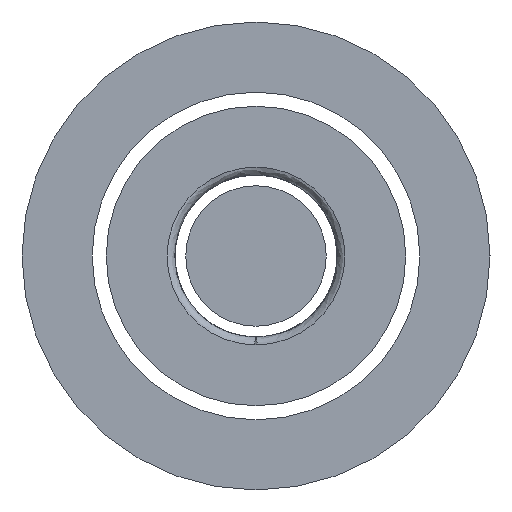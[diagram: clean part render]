
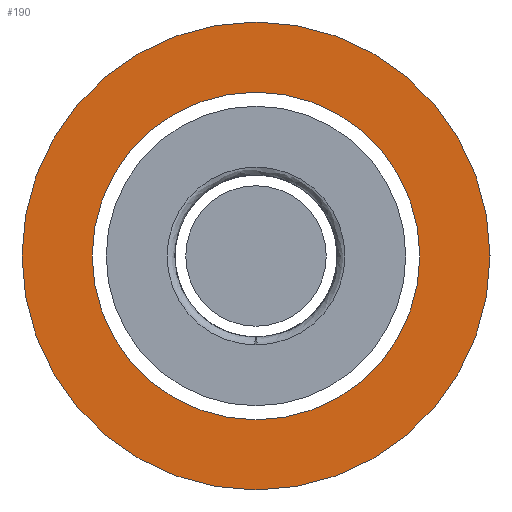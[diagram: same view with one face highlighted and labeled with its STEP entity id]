
A CAD part, left-side view. The second image highlights one B-rep face of the part: STEP entity #190.
In plain terms, the highlighted planar face has unit normal (-1, 0, 0).
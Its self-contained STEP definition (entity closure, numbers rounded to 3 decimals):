
#21 = EDGE_CURVE('',#22,#22,#24,.T.);
#22 = VERTEX_POINT('',#23);
#23 = CARTESIAN_POINT('',(0.,3.5,0.));
#24 = SURFACE_CURVE('',#25,(#30,#42),.PCURVE_S1.);
#25 = CIRCLE('',#26,3.5);
#26 = AXIS2_PLACEMENT_3D('',#27,#28,#29);
#27 = CARTESIAN_POINT('',(0.,0.,0.));
#28 = DIRECTION('',(1.,0.,0.));
#29 = DIRECTION('',(0.,1.,0.));
#30 = PCURVE('',#31,#36);
#31 = CYLINDRICAL_SURFACE('',#32,3.5);
#32 = AXIS2_PLACEMENT_3D('',#33,#34,#35);
#33 = CARTESIAN_POINT('',(0.,0.,0.));
#34 = DIRECTION('',(1.,0.,0.));
#35 = DIRECTION('',(0.,1.,0.));
#36 = DEFINITIONAL_REPRESENTATION('',(#37),#41);
#37 = LINE('',#38,#39);
#38 = CARTESIAN_POINT('',(0.,0.));
#39 = VECTOR('',#40,1.);
#40 = DIRECTION('',(1.,0.));
#41 = ( GEOMETRIC_REPRESENTATION_CONTEXT(2) 
PARAMETRIC_REPRESENTATION_CONTEXT() REPRESENTATION_CONTEXT('2D SPACE',''
  ) );
#42 = PCURVE('',#43,#48);
#43 = PLANE('',#44);
#44 = AXIS2_PLACEMENT_3D('',#45,#46,#47);
#45 = CARTESIAN_POINT('',(0.,0.,0.));
#46 = DIRECTION('',(1.,0.,0.));
#47 = DIRECTION('',(0.,1.,0.));
#48 = DEFINITIONAL_REPRESENTATION('',(#49),#53);
#49 = CIRCLE('',#50,3.5);
#50 = AXIS2_PLACEMENT_2D('',#51,#52);
#51 = CARTESIAN_POINT('',(0.,0.));
#52 = DIRECTION('',(1.,0.));
#53 = ( GEOMETRIC_REPRESENTATION_CONTEXT(2) 
PARAMETRIC_REPRESENTATION_CONTEXT() REPRESENTATION_CONTEXT('2D SPACE',''
  ) );
#129 = CYLINDRICAL_SURFACE('',#130,5.);
#130 = AXIS2_PLACEMENT_3D('',#131,#132,#133);
#131 = CARTESIAN_POINT('',(32.,0.,0.));
#132 = DIRECTION('',(-1.,-0.,-0.));
#133 = DIRECTION('',(0.,1.,0.));
#146 = VERTEX_POINT('',#147);
#147 = CARTESIAN_POINT('',(0.,5.,0.));
#168 = EDGE_CURVE('',#146,#146,#169,.T.);
#169 = SURFACE_CURVE('',#170,(#175,#182),.PCURVE_S1.);
#170 = CIRCLE('',#171,5.);
#171 = AXIS2_PLACEMENT_3D('',#172,#173,#174);
#172 = CARTESIAN_POINT('',(0.,0.,0.));
#173 = DIRECTION('',(1.,0.,0.));
#174 = DIRECTION('',(0.,1.,0.));
#175 = PCURVE('',#129,#176);
#176 = DEFINITIONAL_REPRESENTATION('',(#177),#181);
#177 = LINE('',#178,#179);
#178 = CARTESIAN_POINT('',(-0.,32.));
#179 = VECTOR('',#180,1.);
#180 = DIRECTION('',(-1.,0.));
#181 = ( GEOMETRIC_REPRESENTATION_CONTEXT(2) 
PARAMETRIC_REPRESENTATION_CONTEXT() REPRESENTATION_CONTEXT('2D SPACE',''
  ) );
#182 = PCURVE('',#43,#183);
#183 = DEFINITIONAL_REPRESENTATION('',(#184),#188);
#184 = CIRCLE('',#185,5.);
#185 = AXIS2_PLACEMENT_2D('',#186,#187);
#186 = CARTESIAN_POINT('',(0.,0.));
#187 = DIRECTION('',(1.,0.));
#188 = ( GEOMETRIC_REPRESENTATION_CONTEXT(2) 
PARAMETRIC_REPRESENTATION_CONTEXT() REPRESENTATION_CONTEXT('2D SPACE',''
  ) );
#190 = ADVANCED_FACE('',(#191,#194),#43,.F.);
#191 = FACE_BOUND('',#192,.F.);
#192 = EDGE_LOOP('',(#193));
#193 = ORIENTED_EDGE('',*,*,#168,.T.);
#194 = FACE_BOUND('',#195,.F.);
#195 = EDGE_LOOP('',(#196));
#196 = ORIENTED_EDGE('',*,*,#21,.F.);
